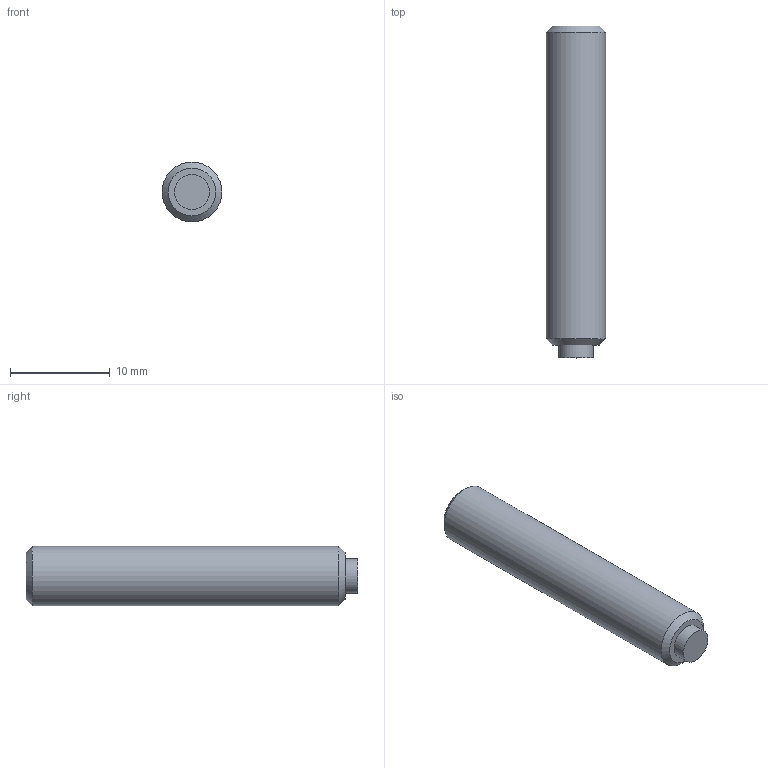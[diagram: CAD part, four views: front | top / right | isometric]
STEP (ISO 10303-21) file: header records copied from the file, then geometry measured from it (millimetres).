
FILE_DESCRIPTION( ( 'STEP AP203' ), '1' );
FILE_NAME( 'C:/Temp/Ganter_Step_05_03_2020/data/3_2/gn913_3/Grub screw GN 913.3-M6-32-KU.stp', '2020-03-13T05:35:36', ( 'License CC BY-ND 4.0' ), ( 'CADENAS' ), ' ', 'PARTsolutions', ' ' );
FILE_SCHEMA( ( 'CONFIG_CONTROL_DESIGN' ) );
Length unit declared in the file: millimetre
Products named in the file (1): _Grub screw GN 913.3-M6-32-KU
Bounding box: 6 x 33.3 x 6 mm (x, y, z)
Volume: 883.4 mm3; surface area: 695.9 mm2
Topology: 1 solids, 1 shells, 14 faces, 28 edges, 18 vertices
Faces by surface type: plane 10, cylinder 2, cone 2
Full cylindrical faces by diameter (mm): 3.5 x1, 6 x1
Entity records: 386 total; most frequent: DIRECTION 60, CARTESIAN_POINT 57, ORIENTED_EDGE 48, EDGE_CURVE 24, AXIS2_PLACEMENT_3D 21, EDGE_LOOP 20, VERTEX_POINT 18, LINE 18
